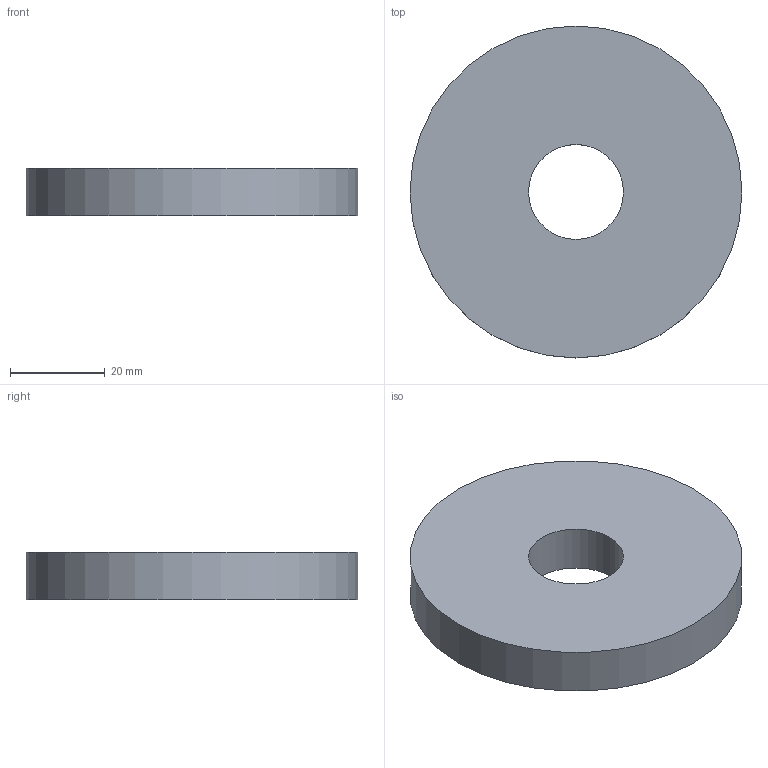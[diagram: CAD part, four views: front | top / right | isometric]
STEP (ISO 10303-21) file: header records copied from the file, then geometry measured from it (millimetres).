
FILE_DESCRIPTION(('Open CASCADE Model'),'2;1');
FILE_NAME('Open CASCADE Shape Model','2026-10-21T16:54:04',('Author'),( 'Open CASCADE'),'Open CASCADE STEP processor 7.9','Open CASCADE 7.9' ,'Unknown');
FILE_SCHEMA(('AUTOMOTIVE_DESIGN { 1 0 10303 214 1 1 1 1 }'));
Length unit declared in the file: millimetre
Products named in the file (1): Open CASCADE STEP translator 7.9 73
Bounding box: 70 x 70 x 10 mm (x, y, z)
Volume: 35342.9 mm3; surface area: 9896 mm2
Topology: 1 solids, 1 shells, 4 faces, 6 edges, 4 vertices
Faces by surface type: cylinder 2, plane 2
Full cylindrical faces by diameter (mm): 20 x1, 70 x1
Entity records: 192 total; most frequent: CARTESIAN_POINT 39, DIRECTION 30, ORIENTED_EDGE 12, PCURVE 12, DEFINITIONAL_REPRESENTATION 12, LINE 10, VECTOR 10, AXIS2_PLACEMENT_3D 9
